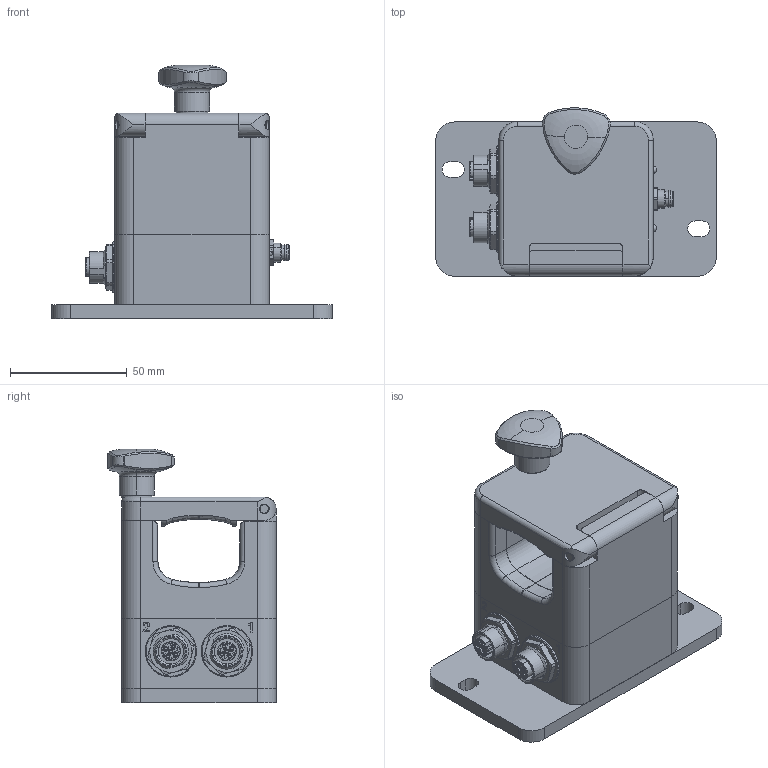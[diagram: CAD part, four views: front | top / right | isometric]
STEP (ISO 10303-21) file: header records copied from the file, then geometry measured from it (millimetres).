
FILE_DESCRIPTION (( 'STEP AP203' ), '1' );
FILE_NAME ('BCU1375_BP.STEP', '2025-10-16T14:06:56', ( '' ), ( '' ), 'SwSTEP 2.0', 'SolidWorks 2023', '' );
FILE_SCHEMA (( 'CONFIG_CONTROL_DESIGN' ));
Length unit declared in the file: inch
Products named in the file (1): BCU1375_BP
Bounding box: 120 x 71.88 x 108.5 mm (x, y, z)
Surface area: 85188.1 mm2 (no closed solid volume)
Topology: 0 solids, 36 shells, 1199 faces, 2917 edges, 1839 vertices
Faces by surface type: cylinder 451, plane 439, cone 151, bspline 83, torus 66, sphere 9
Entity records: 41294 total; most frequent: CARTESIAN_POINT 13598, ORIENTED_EDGE 5730, DIRECTION 5696, EDGE_CURVE 2869, AXIS2_PLACEMENT_3D 2180, VERTEX_POINT 1827, EDGE_LOOP 1350, LINE 1336
